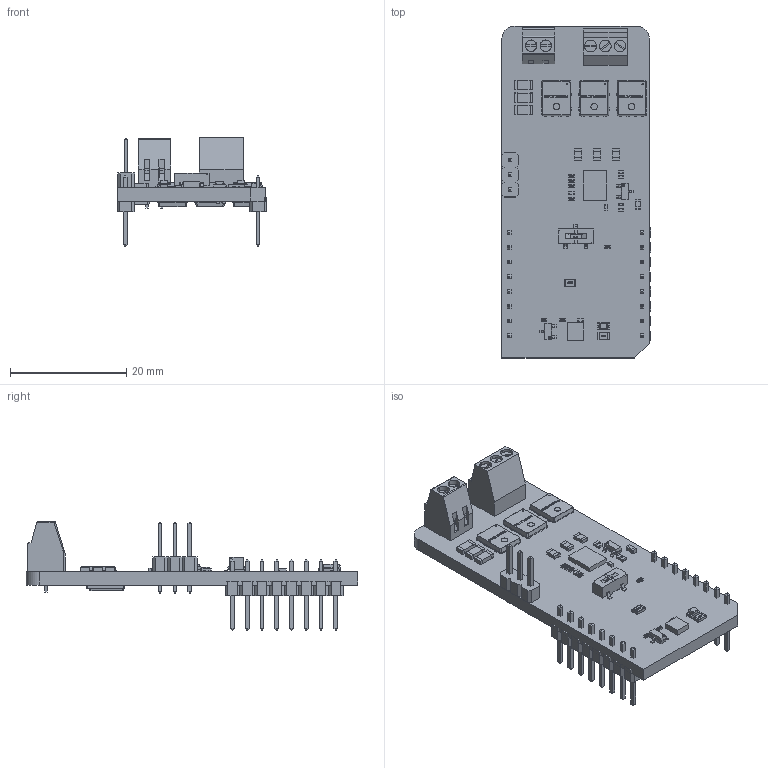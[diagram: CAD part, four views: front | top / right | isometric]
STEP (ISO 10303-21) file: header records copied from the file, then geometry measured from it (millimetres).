
FILE_DESCRIPTION(('Open CASCADE Model'),'2;1');
FILE_NAME('Open CASCADE Shape Model','2026-02-18T09:54:54',('Author'),( 'Open CASCADE'),'Open CASCADE STEP processor 6.8','Open CASCADE 6.8' ,'Unknown');
FILE_SCHEMA(('AUTOMOTIVE_DESIGN { 1 0 10303 214 1 1 1 1 }'));
Length unit declared in the file: millimetre
Products named in the file (70): PCB; Board; MBD1; Header_1x8; Free-Models; 1240637040; User_Library-PinHeaderX5-1_PinHeaderX5_Body_1; User_Library-PinHeaderX5-1_PinHeaderX5_Pins_1; C1; User_Library-SMD_CAPACITOR0402; LD1; led_0805_green; Q1; SOT23-3; R1; User_Library-R_0805; R2; User_Library-R_0402; R4; U1; 898469952; Extruded; R11; R10; R9; TB1; ScrewTerminal_2.54; SW1; CJS-1201TB; _CJS_c_22; _CJS_Slider_s; R8; User_Library-R_2512; R5; R6; R3; R7; Q8; Q7; User_Library-Power_Flat_5x6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
Assembly tree (96 placements, depth 7):
  PCB
    Board
    MBD1
      Header_1x8  x2
        PCB
          Free-Models
            1240637040  x2
              User_Library-PinHeaderX5-1_PinHeaderX5_Body_1
              User_Library-PinHeaderX5-1_PinHeaderX5_Pins_1
    C1
      User_Library-SMD_CAPACITOR0402
    LD1
      led_0805_green
    Q1
      SOT23-3
    R1
      User_Library-R_0805
    R2
      User_Library-R_0402
    R4
      User_Library-R_0402
    U1
      898469952
        Extruded
    R11
      User_Library-R_0402
    R10
      User_Library-R_0402
    R9
      User_Library-R_0402
    TB1
      ScrewTerminal_2.54
    SW1
      CJS-1201TB
        _CJS_c_22
        _CJS_Slider_s
    R8
      User_Library-R_2512
    R5
      User_Library-R_0402
    R6
      User_Library-R_0402
    R3
      User_Library-R_0402
    R7
      User_Library-R_0402
    Q8
      SOT23-3
    Q7
      User_Library-Power_Flat_5x6
    Q6
      User_Library-Power_Flat_5x6
    Q5
      User_Library-Power_Flat_5x6
    Q4
      User_Library-Power_Flat_5x6
    J1
      User_Library-Pin_Header_Strip_1x3
    CN1
      CON_TERMINAL_2.54_1x3_PHO_1725669
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Bounding box: 25.78 x 57.15 x 18.75 mm (x, y, z)
Volume: 4618.2 mm3; surface area: 7037.7 mm2
Topology: 123 solids, 123 shells, 3983 faces, 10594 edges, 6990 vertices
Faces by surface type: plane 2786, cylinder 685, bspline 392, sphere 120
Entity records: 53457 total; most frequent: CARTESIAN_POINT 13974, ORIENTED_EDGE 6758, DIRECTION 6192, EDGE_CURVE 3379, LINE 2662, VECTOR 2662, VERTEX_POINT 2209, AXIS2_PLACEMENT_3D 1765
